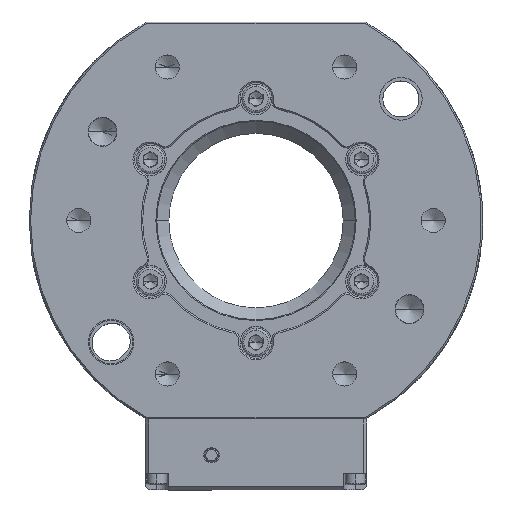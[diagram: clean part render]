
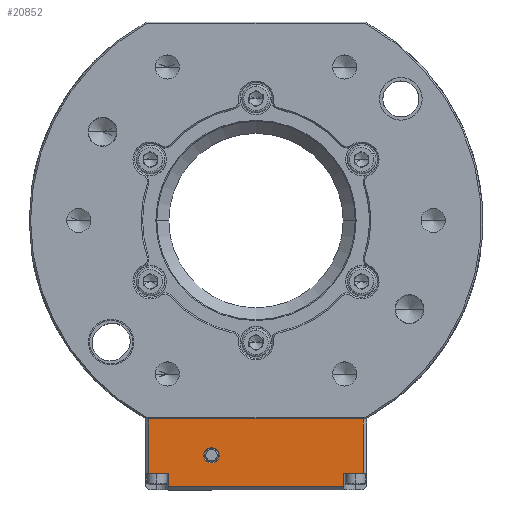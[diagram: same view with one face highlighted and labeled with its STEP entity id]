
A CAD part, top view. The second image highlights one B-rep face of the part: STEP entity #20852.
In plain terms, the highlighted planar face has unit normal (0, 0, 1).
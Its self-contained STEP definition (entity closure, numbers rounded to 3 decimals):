
#878 = DIRECTION ( 'NONE',  ( -1., 0., 0. ) ) ;
#943 = CARTESIAN_POINT ( 'NONE',  ( 0., -70., 30.8 ) ) ;
#1089 = DIRECTION ( 'NONE',  ( 0., 0., 1. ) ) ;
#1555 = VERTEX_POINT ( 'NONE', #9916 ) ;
#1999 = VECTOR ( 'NONE', #878, 1000. ) ;
#2069 = LINE ( 'NONE', #943, #1999 ) ;
#2303 = EDGE_CURVE ( 'NONE', #15868, #27890, #14355, .T. ) ;
#2508 = EDGE_CURVE ( 'NONE', #23864, #25263, #13717, .T. ) ;
#2563 = EDGE_CURVE ( 'NONE', #25263, #29165, #13293, .T. ) ;
#2819 = EDGE_CURVE ( 'NONE', #29165, #15543, #12467, .T. ) ;
#2987 = CARTESIAN_POINT ( 'NONE',  ( 37.8, -70., 30.8 ) ) ;
#3055 = DIRECTION ( 'NONE',  ( 0., 1., 0. ) ) ;
#3077 = EDGE_CURVE ( 'NONE', #15543, #1555, #11217, .T. ) ;
#3137 = AXIS2_PLACEMENT_3D ( 'NONE', #19540, #19606, #19679 ) ;
#3173 = EDGE_CURVE ( 'NONE', #1555, #7535, #10713, .T. ) ;
#3765 = EDGE_CURVE ( 'NONE', #6769, #23864, #7973, .T. ) ;
#4054 = EDGE_CURVE ( 'NONE', #27265, #6769, #6741, .T. ) ;
#4355 = CARTESIAN_POINT ( 'NONE',  ( -37.8, -70., 30.8 ) ) ;
#4603 = ORIENTED_EDGE ( 'NONE', *, *, #3173, .T. ) ;
#5094 = EDGE_CURVE ( 'NONE', #7535, #27265, #2069, .T. ) ;
#5356 = FACE_OUTER_BOUND ( 'NONE', #26957, .T. ) ;
#5927 = EDGE_LOOP ( 'NONE', ( #11193, #7641 ) ) ;
#5949 = ORIENTED_EDGE ( 'NONE', *, *, #2508, .T. ) ;
#5959 = DIRECTION ( 'NONE',  ( 1., 0., 0. ) ) ;
#6073 = CARTESIAN_POINT ( 'NONE',  ( 39., -89.2, 30.8 ) ) ;
#6645 = VECTOR ( 'NONE', #27289, 1000. ) ;
#6741 = LINE ( 'NONE', #27496, #6645 ) ;
#6769 = VERTEX_POINT ( 'NONE', #9790 ) ;
#7535 = VERTEX_POINT ( 'NONE', #27592 ) ;
#7641 = ORIENTED_EDGE ( 'NONE', *, *, #2303, .T. ) ;
#7936 = VECTOR ( 'NONE', #23514, 1000. ) ;
#7973 = LINE ( 'NONE', #25669, #7936 ) ;
#8318 = ORIENTED_EDGE ( 'NONE', *, *, #3077, .T. ) ;
#8419 = CARTESIAN_POINT ( 'NONE',  ( 31., -89.2, 30.8 ) ) ;
#8564 = CARTESIAN_POINT ( 'NONE',  ( -31., -89.2, 30.8 ) ) ;
#9175 = CIRCLE ( 'NONE', #3137, 2.7 ) ;
#9790 = CARTESIAN_POINT ( 'NONE',  ( -37.8, -89.2, 30.8 ) ) ;
#9916 = CARTESIAN_POINT ( 'NONE',  ( 37.8, -89.2, 30.8 ) ) ;
#10486 = CARTESIAN_POINT ( 'NONE',  ( -31., -93.8, 30.8 ) ) ;
#10601 = VECTOR ( 'NONE', #3055, 1000. ) ;
#10713 = LINE ( 'NONE', #2987, #10601 ) ;
#11155 = VECTOR ( 'NONE', #5959, 1000. ) ;
#11193 = ORIENTED_EDGE ( 'NONE', *, *, #16663, .T. ) ;
#11217 = LINE ( 'NONE', #6073, #11155 ) ;
#11408 = DIRECTION ( 'NONE',  ( 0., 0., -1. ) ) ;
#11639 = CARTESIAN_POINT ( 'NONE',  ( -15.7, -82.8, 30.8 ) ) ;
#11680 = DIRECTION ( 'NONE',  ( 1., 0., 0. ) ) ;
#11924 = ORIENTED_EDGE ( 'NONE', *, *, #2819, .T. ) ;
#12148 = FACE_BOUND ( 'NONE', #5927, .T. ) ;
#12245 = AXIS2_PLACEMENT_3D ( 'NONE', #16251, #1089, #18947 ) ;
#12366 = VECTOR ( 'NONE', #13731, 1000. ) ;
#12467 = LINE ( 'NONE', #13930, #12366 ) ;
#13293 = LINE ( 'NONE', #17286, #13543 ) ;
#13543 = VECTOR ( 'NONE', #17361, 1000. ) ;
#13632 = VECTOR ( 'NONE', #15329, 1000. ) ;
#13717 = LINE ( 'NONE', #15118, #13632 ) ;
#13731 = DIRECTION ( 'NONE',  ( 0., 1., 0. ) ) ;
#13844 = CARTESIAN_POINT ( 'NONE',  ( 31., -93.8, 30.8 ) ) ;
#13930 = CARTESIAN_POINT ( 'NONE',  ( 31., -70., 30.8 ) ) ;
#14355 = CIRCLE ( 'NONE', #29825, 2.7 ) ;
#15118 = CARTESIAN_POINT ( 'NONE',  ( -31., -70., 30.8 ) ) ;
#15329 = DIRECTION ( 'NONE',  ( 0., -1., 0. ) ) ;
#15543 = VERTEX_POINT ( 'NONE', #8419 ) ;
#15868 = VERTEX_POINT ( 'NONE', #17057 ) ;
#16251 = CARTESIAN_POINT ( 'NONE',  ( 39., -70., 30.8 ) ) ;
#16372 = PLANE ( 'NONE',  #12245 ) ;
#16663 = EDGE_CURVE ( 'NONE', #27890, #15868, #9175, .T. ) ;
#17057 = CARTESIAN_POINT ( 'NONE',  ( -18.4, -82.8, 30.8 ) ) ;
#17286 = CARTESIAN_POINT ( 'NONE',  ( 39., -93.8, 30.8 ) ) ;
#17361 = DIRECTION ( 'NONE',  ( 1., 0., 0. ) ) ;
#18947 = DIRECTION ( 'NONE',  ( 1., 0., 0. ) ) ;
#19203 = ORIENTED_EDGE ( 'NONE', *, *, #2563, .T. ) ;
#19540 = CARTESIAN_POINT ( 'NONE',  ( -15.7, -82.8, 30.8 ) ) ;
#19606 = DIRECTION ( 'NONE',  ( 0., 0., -1. ) ) ;
#19679 = DIRECTION ( 'NONE',  ( 1., 0., 0. ) ) ;
#20852 = ADVANCED_FACE ( 'NONE', ( #5356, #12148 ), #16372, .T. ) ;
#23514 = DIRECTION ( 'NONE',  ( 1., 0., 0. ) ) ;
#23864 = VERTEX_POINT ( 'NONE', #8564 ) ;
#24192 = CARTESIAN_POINT ( 'NONE',  ( -13., -82.8, 30.8 ) ) ;
#25263 = VERTEX_POINT ( 'NONE', #10486 ) ;
#25408 = ORIENTED_EDGE ( 'NONE', *, *, #4054, .T. ) ;
#25669 = CARTESIAN_POINT ( 'NONE',  ( 39., -89.2, 30.8 ) ) ;
#26213 = ORIENTED_EDGE ( 'NONE', *, *, #5094, .T. ) ;
#26957 = EDGE_LOOP ( 'NONE', ( #25408, #29464, #5949, #19203, #11924, #8318, #4603, #26213 ) ) ;
#27265 = VERTEX_POINT ( 'NONE', #4355 ) ;
#27289 = DIRECTION ( 'NONE',  ( 0., -1., 0. ) ) ;
#27496 = CARTESIAN_POINT ( 'NONE',  ( -37.8, -70., 30.8 ) ) ;
#27592 = CARTESIAN_POINT ( 'NONE',  ( 37.8, -70., 30.8 ) ) ;
#27890 = VERTEX_POINT ( 'NONE', #24192 ) ;
#29165 = VERTEX_POINT ( 'NONE', #13844 ) ;
#29464 = ORIENTED_EDGE ( 'NONE', *, *, #3765, .T. ) ;
#29825 = AXIS2_PLACEMENT_3D ( 'NONE', #11639, #11408, #11680 ) ;
